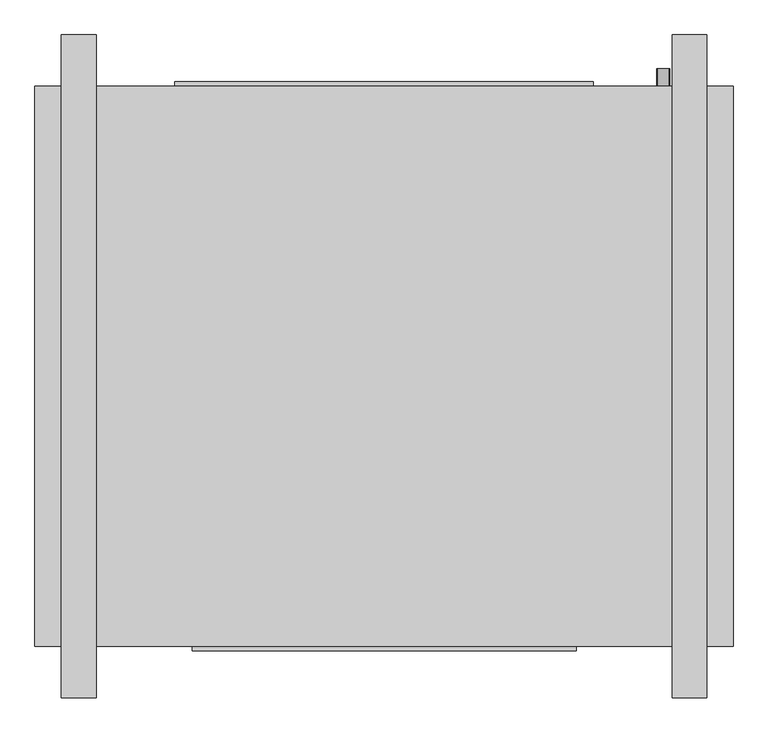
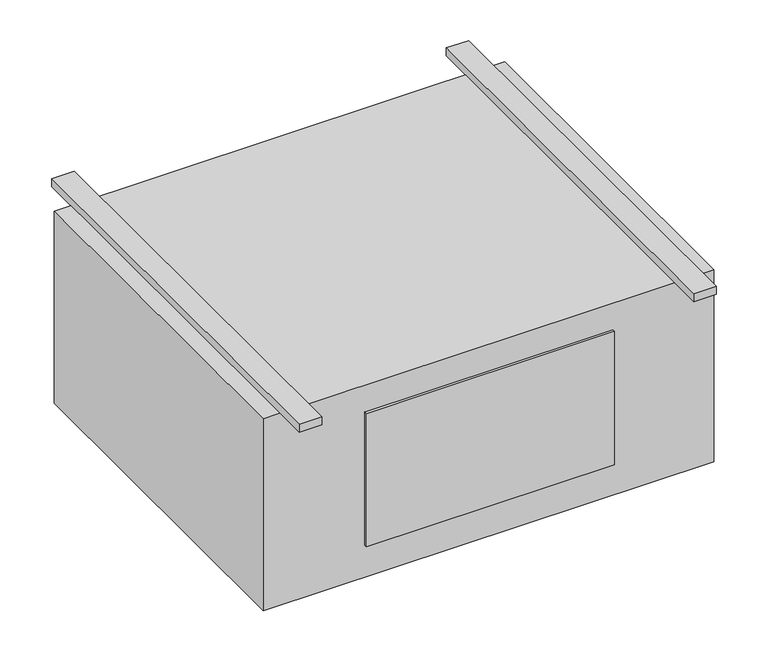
"""IFC4 building model written with IfcOpenShell, lengths in millimetres: proxy geometry, Exposed_High_Capacity_Horizontal_Cabinet_Fan_Coil_Unit_-_42DFA_-_CARRIER_-_2-Pipe_Cool-EHeat_RH_2022 : Size 10 - 277v/60Hz/1Ph - 6 Row 7.0kW."""

from ifc_helpers import new_model, si_unit, point, frame, frame_2d, origin, origin_with_axes, place, context, project, spatial, polyline, circle_curve, trimmed, segment, composite_curve, outline, extrude, source, transform, mapped, element, save


def mechanical_equipment_b159b2cd(model_context):
    return source(origin(), model_context, "Body", "SweptSolid", [
        extrude(outline(composite_curve([segment(trimmed(circle_curve(frame_2d((-406.4, 558.8)), 9.525), [point((-406.4, 549.275))], [point((-406.4, 568.325))], False, "CARTESIAN"), True, "CONTINUOUS"), segment(trimmed(circle_curve(frame_2d((-406.4, 558.8)), 9.525), [point((-406.4, 568.325))], [point((-406.4, 549.275))], False, "CARTESIAN"), True, "CONTINUOUS")], self_intersect=False)), frame((0.0, 169.8625, 0.0), z_axis=(0.0, 1.0, 0.0), x_axis=(0.0, 0.0, 1.0)), (0.0, 0.0, 1.0), 25.4),
        extrude(outline(composite_curve([segment(trimmed(circle_curve(frame_2d((-330.2, 558.8)), 7.9375), [point((-330.2, 550.8625))], [point((-330.2, 566.7375))], False, "CARTESIAN"), True, "CONTINUOUS"), segment(trimmed(circle_curve(frame_2d((-330.2, 558.8)), 7.9375), [point((-330.2, 566.7375))], [point((-330.2, 550.8625))], False, "CARTESIAN"), True, "CONTINUOUS")], self_intersect=False)), frame((0.0, 169.8625, 0.0), z_axis=(0.0, 1.0, 0.0), x_axis=(0.0, 0.0, 1.0)), (0.0, 0.0, 1.0), 25.4),
        extrude(outline(composite_curve([segment(trimmed(circle_curve(frame_2d((-254.0, 558.8)), 7.9375), [point((-254.0, 550.8625))], [point((-254.0, 566.7375))], False, "CARTESIAN"), True, "CONTINUOUS"), segment(trimmed(circle_curve(frame_2d((-254.0, 558.8)), 7.9375), [point((-254.0, 566.7375))], [point((-254.0, 550.8625))], False, "CARTESIAN"), True, "CONTINUOUS")], self_intersect=False)), frame((0.0, 169.8625, 0.0), z_axis=(0.0, 1.0, 0.0), x_axis=(0.0, 0.0, 1.0)), (0.0, 0.0, 1.0), 25.4),
        extrude(outline(polyline([(660.4, 169.8625), (660.4, -646.1125), (-355.6, -646.1125), (-355.6, 169.8625), (660.4, 169.8625)])), frame((0.0, 0.0, -457.2), z_axis=(0.0, 0.0, 1.0), x_axis=(1.0, 0.0, 0.0)), (0.0, 0.0, 1.0), 457.2),
        extrude(outline(polyline([(-152.4, 176.2125), (457.2, 176.2125), (457.2, 169.8625), (-152.4, 169.8625), (-152.4, 176.2125)])), frame((0.0, 0.0, -381.0), z_axis=(0.0, 0.0, 1.0), x_axis=(1.0, 0.0, 0.0)), (0.0, 0.0, 1.0), 355.6),
        extrude(outline(polyline([(-266.7, 244.475), (-266.7, -720.725), (-317.5, -720.725), (-317.5, 244.475), (-266.7, 244.475)])), origin_with_axes(), (0.0, 0.0, 1.0), 19.05),
        extrude(outline(polyline([(622.3, 244.475), (622.3, -720.725), (571.5, -720.725), (571.5, 244.475), (622.3, 244.475)])), origin_with_axes(), (0.0, 0.0, 1.0), 19.05),
        extrude(outline(polyline([(431.8, -652.4625), (-127.0, -652.4625), (-127.0, -646.1125), (431.8, -646.1125), (431.8, -652.4625)])), frame((0.0, 0.0, -381.0), z_axis=(0.0, 0.0, 1.0), x_axis=(1.0, 0.0, 0.0)), (0.0, 0.0, 1.0), 317.5),
    ])


if __name__ == "__main__":
    model = new_model("IFC4")
    model_context = context("Model", 3, world=origin())
    ifc_project = project(units=[si_unit("LENGTHUNIT", "METRE", prefix="MILLI")], contexts=[model_context])
    site = spatial("IfcSite", under=ifc_project)
    building = spatial("IfcBuilding", under=site)
    placement = place(None, origin())
    mechanical_equipment_shape = mechanical_equipment_b159b2cd(model_context)
    element("IfcBuildingElementProxy", 1, Name="Exposed_High_Capacity_Horizontal_Cabinet_Fan_Coil_Unit_-_42DFA_-_CARRIER_-_2-Pipe_Cool-EHeat_RH_2022 : Size 10 - 277v/60Hz/1Ph - 6 Row 7.0kW", ObjectType="Exposed_High_Capacity_Horizontal_Cabinet_Fan_Coil_Unit_-_42DFA_-_CARRIER_-_2-Pipe_Cool-EHeat_RH_2022 : Size 10 - 277v/60Hz/1Ph - 6 Row 7.0kW", at=placement, inside=building, context=model_context, shape_type="MappedRepresentation", body=[
        mapped(mechanical_equipment_shape, transform((0.0, 0.0, 0.0), x_axis=(1.0, 0.0, 0.0), y_axis=(0.0, 1.0, 0.0), z_axis=(0.0, 0.0, 1.0))),
    ])
    save(model, "model.ifc")
